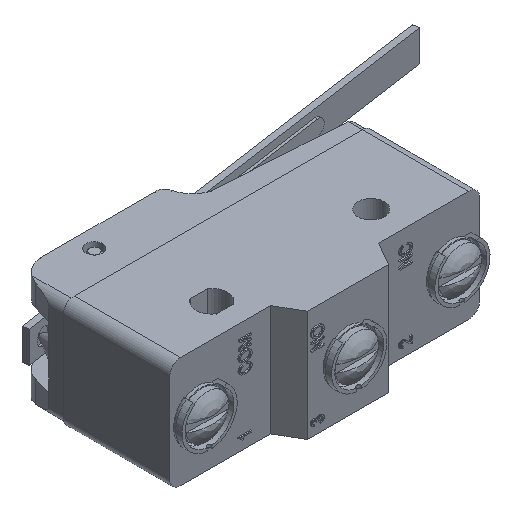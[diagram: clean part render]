
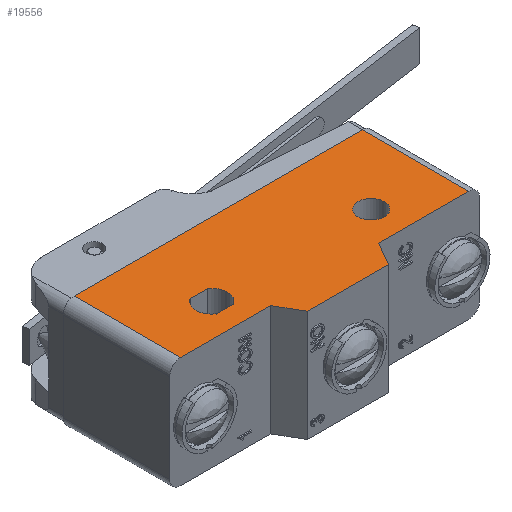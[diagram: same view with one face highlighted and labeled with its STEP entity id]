
A CAD part, isometric view. The second image highlights one B-rep face of the part: STEP entity #19556.
In plain terms, the highlighted planar face has unit normal (0, 0, 1).
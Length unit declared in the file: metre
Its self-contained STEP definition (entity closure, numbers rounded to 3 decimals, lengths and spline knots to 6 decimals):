
#16860=CARTESIAN_POINT('',(0.007822,-0.007756,0.05825));
#16861=VERTEX_POINT('',#16860);
#16864=CARTESIAN_POINT('',(0.005686,-0.011456,0.05825));
#16865=DIRECTION('',(0.5,0.866,0.));
#16866=VECTOR('',#16865,1.);
#16867=LINE('',#16864,#16866);
#16868=CARTESIAN_POINT('',(0.005686,-0.011456,0.05825));
#16869=VERTEX_POINT('',#16868);
#16870=EDGE_CURVE('',#16869,#16861,#16867,.T.);
#17646=CARTESIAN_POINT('',(-0.007242,-0.011456,0.05825));
#17647=DIRECTION('',(1.,0.,0.));
#17648=VECTOR('',#17647,1.);
#17649=LINE('',#17646,#17648);
#17650=CARTESIAN_POINT('',(-0.007242,-0.011456,0.05825));
#17651=VERTEX_POINT('',#17650);
#17652=EDGE_CURVE('',#17651,#16869,#17649,.T.);
#17726=CARTESIAN_POINT('',(-0.009378,-0.007756,0.05825));
#17727=DIRECTION('',(0.5,-0.866,0.));
#17728=VECTOR('',#17727,1.);
#17729=LINE('',#17726,#17728);
#17730=CARTESIAN_POINT('',(-0.009378,-0.007756,0.05825));
#17731=VERTEX_POINT('',#17730);
#17732=EDGE_CURVE('',#17731,#17651,#17729,.T.);
#19165=CARTESIAN_POINT('',(-0.025478,-0.007756,0.05825));
#19166=DIRECTION('',(1.,0.,0.));
#19167=VECTOR('',#19166,1.);
#19168=LINE('',#19165,#19167);
#19169=CARTESIAN_POINT('',(-0.023728,-0.007756,0.05825));
#19170=VERTEX_POINT('',#19169);
#19171=EDGE_CURVE('',#19170,#17731,#19168,.T.);
#19281=CARTESIAN_POINT('',(-0.023728,0.009244,0.05825));
#19282=VERTEX_POINT('',#19281);
#19287=CARTESIAN_POINT('',(-0.023728,-0.003156,0.05825));
#19288=DIRECTION('',(0.,-1.,0.));
#19289=VECTOR('',#19288,1.);
#19290=LINE('',#19287,#19289);
#19291=EDGE_CURVE('',#19282,#19170,#19290,.T.);
#19314=CARTESIAN_POINT('',(0.022172,-0.007756,0.05825));
#19315=VERTEX_POINT('',#19314);
#19333=CARTESIAN_POINT('',(0.022172,0.009244,0.05825));
#19334=VERTEX_POINT('',#19333);
#19337=CARTESIAN_POINT('',(0.022172,-0.003156,0.05825));
#19338=DIRECTION('',(0.,1.,0.));
#19339=VECTOR('',#19338,1.);
#19340=LINE('',#19337,#19339);
#19341=EDGE_CURVE('',#19315,#19334,#19340,.T.);
#19374=CARTESIAN_POINT('',(-0.014834,-0.000356,0.05825));
#19375=VERTEX_POINT('',#19374);
#19378=CARTESIAN_POINT('',(-0.013478,-0.002456,0.05825));
#19379=DIRECTION('',(0.,0.,1.));
#19380=DIRECTION('',(1.,0.,0.));
#19381=AXIS2_PLACEMENT_3D('',#19378,#19379,#19380);
#19382=CIRCLE('',#19381,0.0025);
#19383=CARTESIAN_POINT('',(-0.014834,-0.004556,0.05825));
#19384=VERTEX_POINT('',#19383);
#19385=EDGE_CURVE('',#19375,#19384,#19382,.T.);
#19418=CARTESIAN_POINT('',(-0.012121,-0.004556,0.05825));
#19419=DIRECTION('',(1.,0.,0.));
#19420=VECTOR('',#19419,1.);
#19421=LINE('',#19418,#19420);
#19422=CARTESIAN_POINT('',(-0.012121,-0.004556,0.05825));
#19423=VERTEX_POINT('',#19422);
#19424=EDGE_CURVE('',#19384,#19423,#19421,.T.);
#19448=CARTESIAN_POINT('',(-0.013478,-0.002456,0.05825));
#19449=DIRECTION('',(0.,0.,1.));
#19450=DIRECTION('',(1.,0.,0.));
#19451=AXIS2_PLACEMENT_3D('',#19448,#19449,#19450);
#19452=CIRCLE('',#19451,0.0025);
#19453=CARTESIAN_POINT('',(-0.012121,-0.000356,0.05825));
#19454=VERTEX_POINT('',#19453);
#19455=EDGE_CURVE('',#19423,#19454,#19452,.T.);
#19490=CARTESIAN_POINT('',(-0.012121,-0.000356,0.05825));
#19491=DIRECTION('',(-1.,0.,0.));
#19492=VECTOR('',#19491,1.);
#19493=LINE('',#19490,#19492);
#19494=EDGE_CURVE('',#19454,#19375,#19493,.T.);
#19514=CARTESIAN_POINT('',(0.012562,-0.003156,0.05825));
#19515=DIRECTION('',(0.,0.,-1.));
#19516=DIRECTION('',(-1.,0.,0.));
#19517=AXIS2_PLACEMENT_3D('',#19514,#19515,#19516);
#19518=PLANE('',#19517);
#19519=ORIENTED_EDGE('',*,*,#19494,.F.);
#19520=ORIENTED_EDGE('',*,*,#19455,.F.);
#19521=ORIENTED_EDGE('',*,*,#19424,.F.);
#19522=ORIENTED_EDGE('',*,*,#19385,.F.);
#19523=EDGE_LOOP('',(#19519,#19520,#19521,#19522));
#19524=FACE_BOUND('',#19523,.T.);
#19525=CARTESIAN_POINT('',(0.011922,-0.002456,0.05825));
#19526=DIRECTION('',(0.,0.,1.));
#19527=DIRECTION('',(1.,0.,0.));
#19528=AXIS2_PLACEMENT_3D('',#19525,#19526,#19527);
#19529=CIRCLE('',#19528,0.0021);
#19530=CARTESIAN_POINT('',(0.009822,-0.002456,0.05825));
#19531=VERTEX_POINT('',#19530);
#19532=EDGE_CURVE('',#19531,#19531,#19529,.T.);
#19533=ORIENTED_EDGE('',*,*,#19532,.F.);
#19534=EDGE_LOOP('',(#19533));
#19535=FACE_BOUND('',#19534,.T.);
#19536=CARTESIAN_POINT('',(0.007822,-0.007756,0.05825));
#19537=DIRECTION('',(1.,0.,0.));
#19538=VECTOR('',#19537,1.);
#19539=LINE('',#19536,#19538);
#19540=EDGE_CURVE('',#16861,#19315,#19539,.T.);
#19541=ORIENTED_EDGE('',*,*,#19540,.T.);
#19542=ORIENTED_EDGE('',*,*,#19341,.T.);
#19543=CARTESIAN_POINT('',(0.023922,0.009244,0.05825));
#19544=DIRECTION('',(-1.,0.,0.));
#19545=VECTOR('',#19544,1.);
#19546=LINE('',#19543,#19545);
#19547=EDGE_CURVE('',#19334,#19282,#19546,.T.);
#19548=ORIENTED_EDGE('',*,*,#19547,.T.);
#19549=ORIENTED_EDGE('',*,*,#19291,.T.);
#19550=ORIENTED_EDGE('',*,*,#19171,.T.);
#19551=ORIENTED_EDGE('',*,*,#17732,.T.);
#19552=ORIENTED_EDGE('',*,*,#17652,.T.);
#19553=ORIENTED_EDGE('',*,*,#16870,.T.);
#19554=EDGE_LOOP('',(#19541,#19542,#19548,#19549,#19550,#19551,#19552,#19553));
#19555=FACE_BOUND('',#19554,.T.);
#19556=ADVANCED_FACE('',(#19524,#19535,#19555),#19518,.F.);
